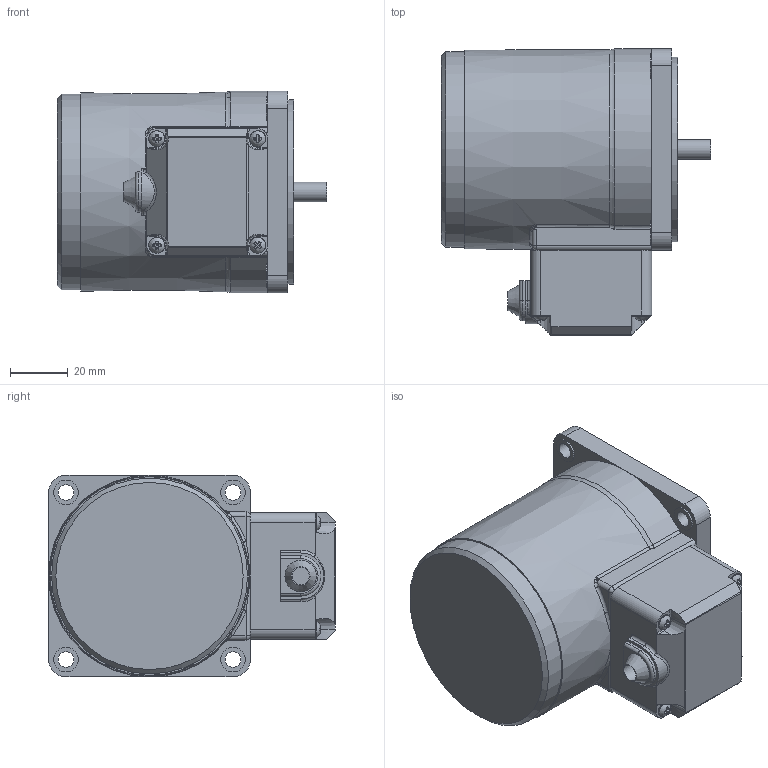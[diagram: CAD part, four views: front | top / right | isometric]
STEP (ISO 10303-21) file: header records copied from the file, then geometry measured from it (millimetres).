
FILE_DESCRIPTION((''),'2;1');
FILE_NAME('\\Autocad_1\미주향 도면\3D 도면\조립품\S7I15G_TCE.stp','2011-07-27T11:58:41',('jy-jung'),(''),'Autodesk Inventor 2011','Autodesk Inventor 2011','');
FILE_SCHEMA(('AUTOMOTIVE_DESIGN { 1 0 10303 214 1 1 1 1 }'));
Length unit declared in the file: millimetre
Products named in the file (1): 부품26
Bounding box: 93.4 x 99.5 x 70 mm (x, y, z)
Volume: 343446.2 mm3; surface area: 43856.4 mm2
Topology: 1 solids, 6 shells, 305 faces, 783 edges, 500 vertices
Faces by surface type: plane 143, cylinder 96, bspline 35, torus 18, cone 11, sphere 2
Full cylindrical faces by diameter (mm): 3 x4, 3.5 x4, 3.8 x4, 5.5 x4, 5.6 x4, 6.7 x1, 8 x1, 8.5 x4, 28 x1, 64 x1, 68 x1
Entity records: 10255 total; most frequent: CARTESIAN_POINT 2963, ORIENTED_EDGE 1440, DIRECTION 1409, EDGE_CURVE 720, AXIS2_PLACEMENT_3D 537, VERTEX_POINT 489, EDGE_LOOP 389, VECTOR 335
